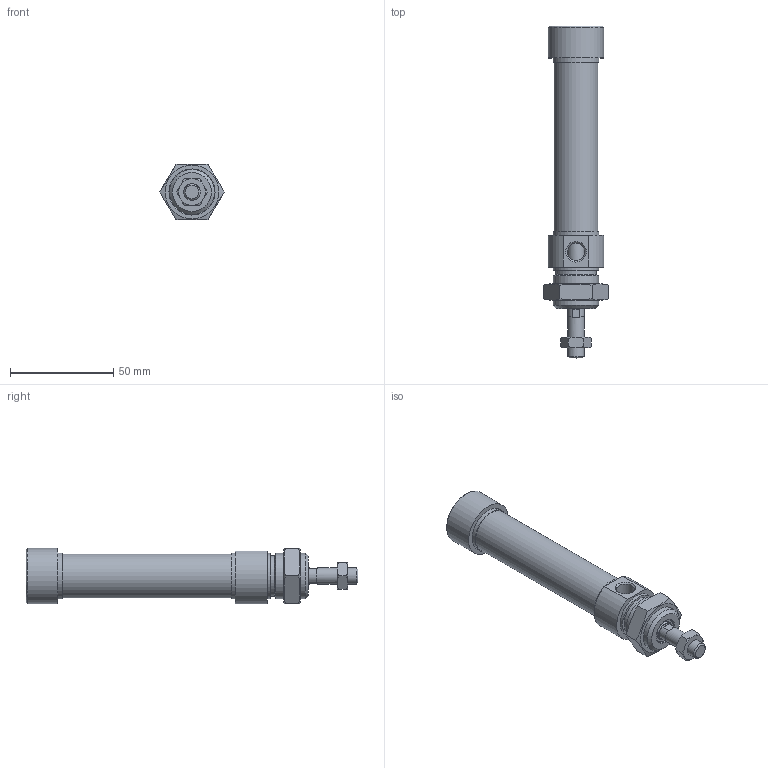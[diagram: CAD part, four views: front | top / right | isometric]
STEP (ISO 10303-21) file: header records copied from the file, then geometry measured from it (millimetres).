
FILE_DESCRIPTION(/* description */ ('Unknown'),/* implementation_level */ '2;1');
FILE_NAME(/* name */ 'RIMA 20_50',/* time_stamp */ '2024-08-30T12:58:35+02:00',/* author */ ('Unknown'),/* organization */ ('Unknown'),/* preprocessor_version */ 'ST-DEVELOPER v16.7',/* originating_system */ 'Solid Edge',/* authorisation */ 'Unknown');
FILE_SCHEMA (('AUTOMOTIVE_DESIGN {1 0 10303 214 3 1 1}'));
Length unit declared in the file: millimetre
Products named in the file (7): RIMA 20_50; Profilrohr; Kolbenstange; Kit_1; Kit_2; Mutter_1; Mutter_2
Assembly tree (6 placements, depth 2):
  RIMA 20_50
    Profilrohr
    Kolbenstange
    Kit_1
    Kit_2
    Mutter_1
    Mutter_2
Bounding box: 31.18 x 161 x 27 mm (x, y, z)
Volume: 46283.5 mm3; surface area: 26610.9 mm2
Topology: 6 solids, 6 shells, 121 faces, 240 edges, 148 vertices
Faces by surface type: plane 47, cone 39, cylinder 28, torus 7
Full cylindrical faces by diameter (mm): 1.7 x1, 6.647 x1, 8 x2, 8.5 x1, 8.56 x2, 8.566 x2, 9.1 x1, 12 x1, 12.1 x1, 14.1 x1, 14.2 x1, 17.9 x1, 19.7 x1, 20 x3, 20.376 x1, 21.27 x1, 22 x2, 22.2 x2, 27 x1
Entity records: 3667 total; most frequent: CARTESIAN_POINT 540, DIRECTION 488, ORIENTED_EDGE 340, AXIS2_PLACEMENT_3D 230, EDGE_LOOP 204, FACE_BOUND 204, EDGE_CURVE 170, VERTEX_POINT 136
